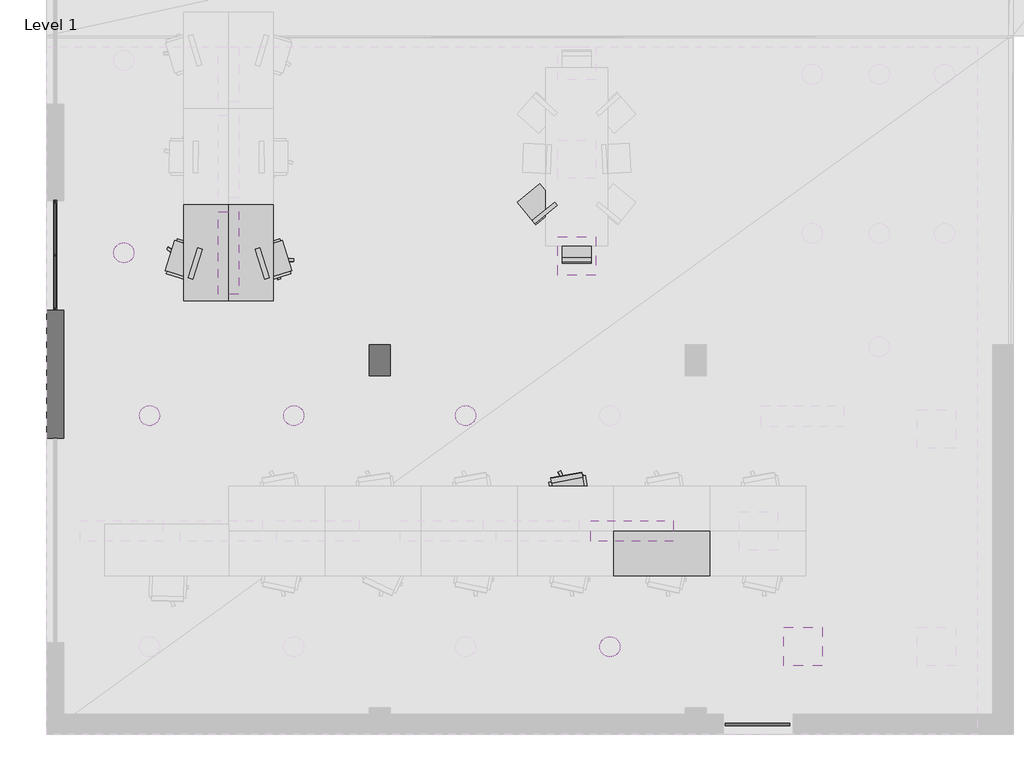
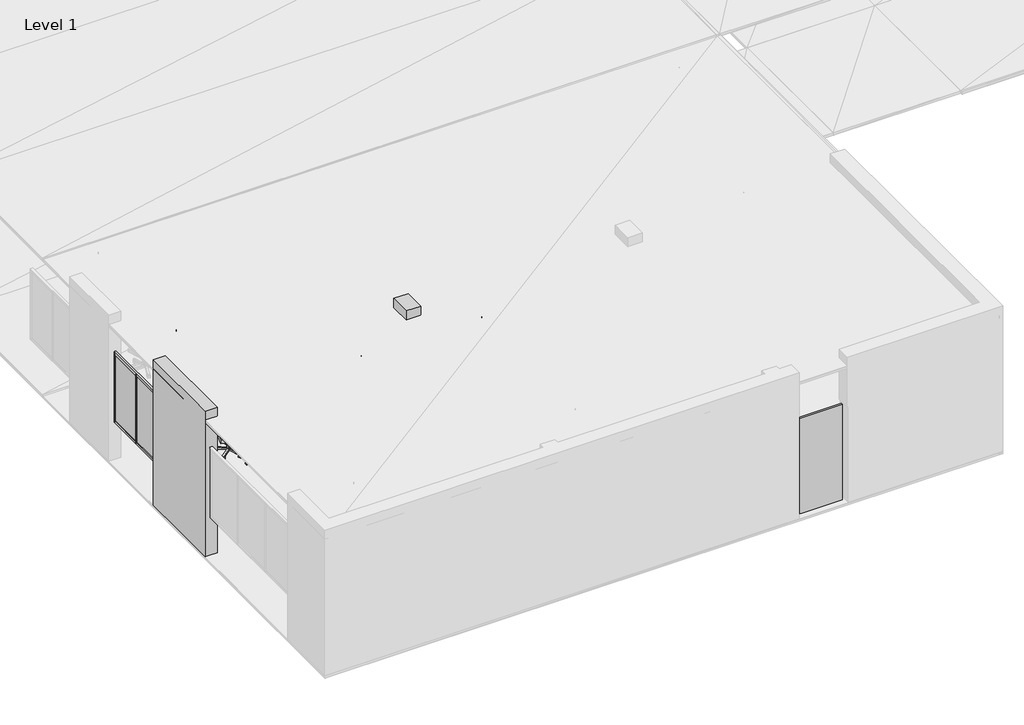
# One storey, part 3 of 14: 24 proxies.
"""IFC4 building model written with IfcOpenShell, lengths in millimetres."""

from ifc_helpers import new_model, si_unit, frame, origin, origin_with_axes, place, context, project, spatial, polyline, outline, extrude, element, save

model = new_model("IFC4")

# Units and contexts
model_context = context("Model", 3, world=origin())
ifc_project = project(units=[si_unit("LENGTHUNIT", "METRE", prefix="MILLI")], contexts=[model_context])

# Site, building, storey
site = spatial("IfcSite", under=ifc_project)
building = spatial("IfcBuilding", under=site)
storey = spatial("IfcBuildingStorey", under=building, Name="Level 1", Elevation=0.0)

# Proxies
placement = place(None, origin())
element("IfcBuildingElementProxy", 1, Name="Generic Models", at=placement, inside=storey, context=model_context, shape_type="SweptSolid", body=[
    extrude(outline(polyline([(8256.826401, 2957.967758), (9656.826019, 2957.967758), (9656.826019, 2307.967901), (8256.826401, 2307.967901), (8256.826401, 2957.967758)])), frame((0.0, 0.0, 709.999979), z_axis=(0.0, 0.0, 1.0), x_axis=(1.0, 0.0, 0.0)), (0.0, 0.0, 1.0), 40.000021),
])
element("IfcBuildingElementProxy", 2, Name="Generic Models", at=placement, inside=storey, context=model_context, shape_type="SweptSolid", body=[
    extrude(outline(polyline([(3306.826115, 6308.549404), (2656.826019, 6308.549404), (2656.826019, 7708.5495), (3306.826115, 7708.5495), (3306.826115, 6308.549404)])), frame((0.0, 0.0, 709.999979), z_axis=(0.0, 0.0, 1.0), x_axis=(1.0, 0.0, 0.0)), (0.0, 0.0, 1.0), 40.000021),
])
element("IfcBuildingElementProxy", 3, Name="Generic Models", at=placement, inside=storey, context=model_context, shape_type="SweptSolid", body=[
    extrude(outline(polyline([(2656.826019, 6308.549404), (2006.826162, 6308.549404), (2006.826162, 7708.5495), (2656.826019, 7708.5495), (2656.826019, 6308.549404)])), frame((0.0, 0.0, 709.999979), z_axis=(0.0, 0.0, 1.0), x_axis=(1.0, 0.0, 0.0)), (0.0, 0.0, 1.0), 40.000021),
])
element("IfcBuildingElementProxy", 4, Name="Generic Models", at=placement, inside=storey, context=model_context, shape_type="SweptSolid", body=[
    extrude(outline(polyline([(4706.017494, 5670.000553), (5006.017685, 5670.000553), (5006.017685, 5220.000267), (4706.017494, 5220.000267), (4706.017494, 5670.000553)])), origin_with_axes(), (0.0, 0.0, 1.0), 3200.000048),
])
element("IfcBuildingElementProxy", 5, Name="Generic Models", at=placement, inside=storey, context=model_context, shape_type="SweptSolid", body=[
    extrude(outline(polyline([(6.826094, 6170.000553), (256.826103, 6170.000553), (256.826103, 4310.00042), (6.826094, 4310.00042), (6.826094, 6170.000553)])), origin_with_axes(), (0.0, 0.0, 1.0), 3200.000048),
])
element("IfcBuildingElementProxy", 6, Name="Generic Models", at=placement, inside=storey, context=model_context, shape_type="SweptSolid", body=[
    extrude(outline(polyline([(10826.01738, 162.500352), (10826.01738, 127.500355), (9886.017799, 127.500355), (9886.017799, 162.500352), (10826.01738, 162.500352)])), origin_with_axes(), (0.0, 0.0, 1.0), 2099.999905),
])
element("IfcBuildingElementProxy", 7, Name="Generic Models", at=placement, inside=storey, context=model_context, shape_type="SweptSolid", body=[
    extrude(outline(polyline([(153.899997, 6957.499981), (108.900003, 6957.499981), (108.900003, 6982.500076), (153.899997, 6982.500076), (153.899997, 6957.499981)])), frame((0.0, 0.0, 850.000024), z_axis=(0.0, 0.0, 1.0), x_axis=(1.0, 0.0, 0.0)), (0.0, 0.0, 1.0), 1499.999881),
    extrude(outline(polyline([(153.899997, 7727.499962), (108.900003, 7727.499962), (108.900003, 7772.500038), (153.899997, 7772.500038), (153.899997, 7727.499962)])), frame((0.0, 0.0, 850.000024), z_axis=(0.0, 0.0, 1.0), x_axis=(1.0, 0.0, 0.0)), (0.0, 0.0, 1.0), 1499.999881),
    extrude(outline(polyline([(153.899997, 6167.500019), (108.900003, 6167.500019), (108.900003, 6212.500095), (153.899997, 6212.500095), (153.899997, 6167.500019)])), frame((0.0, 0.0, 850.000024), z_axis=(0.0, 0.0, 1.0), x_axis=(1.0, 0.0, 0.0)), (0.0, 0.0, 1.0), 1499.999881),
    extrude(outline(polyline([(153.899997, 6170.000076), (108.900003, 6170.000076), (108.900003, 7769.999981), (153.899997, 7769.999981), (153.899997, 6170.000076)])), frame((0.0, 0.0, 2327.500105), z_axis=(0.0, 0.0, 1.0), x_axis=(1.0, 0.0, 0.0)), (0.0, 0.0, 1.0), 44.999838),
    extrude(outline(polyline([(153.899997, 6170.000076), (108.900003, 6170.000076), (108.900003, 7769.999981), (153.899997, 7769.999981), (153.899997, 6170.000076)])), frame((0.0, 0.0, 827.499986), z_axis=(0.0, 0.0, 1.0), x_axis=(1.0, 0.0, 0.0)), (0.0, 0.0, 1.0), 45.000016),
    extrude(outline(polyline([(140.400007, 6170.000076), (122.400001, 6170.000076), (122.400001, 7769.999981), (140.400007, 7769.999981), (140.400007, 6170.000076)])), frame((0.0, 0.0, 850.000024), z_axis=(0.0, 0.0, 1.0), x_axis=(1.0, 0.0, 0.0)), (0.0, 0.0, 1.0), 1499.999881),
])
element("IfcBuildingElementProxy", 8, Name="Generic Models", at=placement, inside=storey, context=model_context, shape_type="SweptSolid", body=[
    extrude(outline(polyline([(2806.826115, 6408.549309), (2506.825924, 6408.549309), (2506.825924, 7608.549118), (2806.826115, 7608.549118), (2806.826115, 6408.549309)])), frame((0.0, 0.0, 2910.000086), z_axis=(0.0, 0.0, 1.0), x_axis=(1.0, 0.0, 0.0)), (0.0, 0.0, 1.0), 39.999962),
])
element("IfcBuildingElementProxy", 9, Name="Generic Models", at=placement, inside=storey, context=model_context, shape_type="SweptSolid", body=[
    extrude(outline(polyline([(7924.602985, 2807.967901), (7924.602985, 3107.968092), (9124.603271, 3107.968092), (9124.603271, 2807.967901), (7924.602985, 2807.967901)])), frame((0.0, 0.0, 2910.000086), z_axis=(0.0, 0.0, 1.0), x_axis=(1.0, 0.0, 0.0)), (0.0, 0.0, 1.0), 39.999962),
])
element("IfcBuildingElementProxy", 10, Name="Generic Models", at=placement, inside=storey, context=model_context, shape_type="SweptSolid", body=[
    extrude(outline(polyline([(7443.556786, 6683.823586), (7443.556786, 7243.824005), (8003.557205, 7243.824005), (8003.557205, 6683.823586), (7443.556786, 6683.823586)])), frame((0.0, 0.0, 2910.000086), z_axis=(0.0, 0.0, 1.0), x_axis=(1.0, 0.0, 0.0)), (0.0, 0.0, 1.0), 39.999962),
])
element("IfcBuildingElementProxy", 11, Name="Generic Models", at=placement, inside=storey, context=model_context, shape_type="SweptSolid", body=[
    extrude(outline(polyline([(10737.638474, 999.878049), (10737.638474, 1559.877992), (11297.637939, 1559.877992), (11297.637939, 999.878049), (10737.638474, 999.878049)])), frame((0.0, 0.0, 2910.000086), z_axis=(0.0, 0.0, 1.0), x_axis=(1.0, 0.0, 0.0)), (0.0, 0.0, 1.0), 39.999962),
])
element("IfcBuildingElementProxy", 12, Name="Generic Models", at=placement, inside=storey, context=model_context, shape_type="SweptSolid", body=[
    extrude(outline(polyline([(8342.161179, 1217.591763), (8328.543663, 1192.115068), (8310.217857, 1169.784665), (8287.887573, 1151.458502), (8262.411118, 1137.840986), (8234.76696, 1129.455328), (8206.018448, 1126.623869), (8177.269936, 1129.455328), (8149.625778, 1137.840986), (8124.149323, 1151.458502), (8101.819038, 1169.784665), (8083.493233, 1192.115068), (8069.875717, 1217.591763), (8061.490059, 1245.235443), (8058.6586, 1273.983955), (8061.490059, 1302.732468), (8069.875717, 1330.376148), (8083.493233, 1355.852842), (8101.819038, 1378.183246), (8124.149323, 1396.509409), (8149.625778, 1410.126925), (8177.269936, 1418.512583), (8206.018448, 1421.344042), (8234.76696, 1418.512583), (8262.411118, 1410.126925), (8287.887573, 1396.509409), (8310.217857, 1378.183246), (8328.543663, 1355.852842), (8342.161179, 1330.376148), (8350.546837, 1302.732468), (8353.378296, 1273.983955), (8350.546837, 1245.235443), (8342.161179, 1217.591763)])), frame((0.0, 0.0, 2910.000086), z_axis=(0.0, 0.0, 1.0), x_axis=(1.0, 0.0, 0.0)), (0.0, 0.0, 1.0), 39.999962),
])
element("IfcBuildingElementProxy", 13, Name="Generic Models", at=placement, inside=storey, context=model_context, shape_type="SweptSolid", body=[
    extrude(outline(polyline([(1267.969012, 6952.157021), (1254.351497, 6926.680565), (1236.025333, 6904.349804), (1213.69493, 6886.023998), (1188.218355, 6872.406483), (1160.574555, 6864.020824), (1131.826043, 6861.189365), (1103.077531, 6864.020824), (1075.433731, 6872.406483), (1049.957156, 6886.023998), (1027.626753, 6904.349804), (1009.30059, 6926.680565), (995.683074, 6952.157021), (987.297475, 6979.800701), (984.465957, 7008.549213), (987.297475, 7037.297726), (995.683074, 7064.941406), (1009.30059, 7090.417862), (1027.626753, 7112.748623), (1049.957156, 7131.074429), (1075.433731, 7144.691944), (1103.077531, 7153.077602), (1131.826043, 7155.909061), (1160.574555, 7153.077602), (1188.218355, 7144.691944), (1213.69493, 7131.074429), (1236.025333, 7112.748623), (1254.351497, 7090.417862), (1267.969012, 7064.941406), (1276.354671, 7037.297726), (1279.18613, 7008.549213), (1276.354671, 6979.800701), (1267.969012, 6952.157021)])), frame((0.0, 0.0, 2910.000086), z_axis=(0.0, 0.0, 1.0), x_axis=(1.0, 0.0, 0.0)), (0.0, 0.0, 1.0), 39.999962),
])
element("IfcBuildingElementProxy", 14, Name="Generic Models", at=placement, inside=storey, context=model_context, shape_type="SweptSolid", body=[
    extrude(outline(polyline([(6242.160797, 4582.59201), (6228.543282, 4557.115555), (6210.217476, 4534.784794), (6187.886715, 4516.458988), (6162.410259, 4502.841473), (6134.766579, 4494.455814), (6106.018066, 4491.624355), (6077.269554, 4494.455814), (6049.625874, 4502.841473), (6024.149418, 4516.458988), (6001.818657, 4534.784794), (5983.492851, 4557.115555), (5969.875336, 4582.59201), (5961.489677, 4610.235691), (5958.658218, 4638.984203), (5961.489677, 4667.732716), (5969.875336, 4695.376396), (5983.492851, 4720.852852), (6001.818657, 4743.183613), (6024.149418, 4761.509418), (6049.625874, 4775.126934), (6077.269554, 4783.512592), (6106.018066, 4786.344051), (6134.766579, 4783.512592), (6162.410259, 4775.126934), (6187.886715, 4761.509418), (6210.217476, 4743.183613), (6228.543282, 4720.852852), (6242.160797, 4695.376396), (6250.546455, 4667.732716), (6253.377914, 4638.984203), (6250.546455, 4610.235691), (6242.160797, 4582.59201)])), frame((0.0, 0.0, 2910.000086), z_axis=(0.0, 0.0, 1.0), x_axis=(1.0, 0.0, 0.0)), (0.0, 0.0, 1.0), 39.999962),
])
element("IfcBuildingElementProxy", 15, Name="Generic Models", at=placement, inside=storey, context=model_context, shape_type="SweptSolid", body=[
    extrude(outline(polyline([(3742.161036, 4582.59201), (3728.54352, 4557.115555), (3710.217476, 4534.784794), (3687.886953, 4516.458988), (3662.410259, 4502.841473), (3634.766579, 4494.455814), (3606.018066, 4491.624355), (3577.269554, 4494.455814), (3549.625874, 4502.841473), (3524.149179, 4516.458988), (3501.818657, 4534.784794), (3483.492613, 4557.115555), (3469.875097, 4582.59201), (3461.489439, 4610.235691), (3458.65798, 4638.984203), (3461.489439, 4667.732716), (3469.875097, 4695.376396), (3483.492613, 4720.852852), (3501.818657, 4743.183613), (3524.149179, 4761.509418), (3549.625874, 4775.126934), (3577.269554, 4783.512592), (3606.018066, 4786.344051), (3634.766579, 4783.512592), (3662.410259, 4775.126934), (3687.886953, 4761.509418), (3710.217476, 4743.183613), (3728.54352, 4720.852852), (3742.161036, 4695.376396), (3750.546694, 4667.732716), (3753.378153, 4638.984203), (3750.546694, 4610.235691), (3742.161036, 4582.59201)])), frame((0.0, 0.0, 2910.000086), z_axis=(0.0, 0.0, 1.0), x_axis=(1.0, 0.0, 0.0)), (0.0, 0.0, 1.0), 39.999962),
])
element("IfcBuildingElementProxy", 16, Name="Generic Models", at=placement, inside=storey, context=model_context, shape_type="SweptSolid", body=[
    extrude(outline(polyline([(1642.161012, 4582.59201), (1628.543496, 4557.115555), (1610.217333, 4534.784794), (1587.88693, 4516.458988), (1562.410355, 4502.841473), (1534.766555, 4494.455814), (1506.018043, 4491.624355), (1477.26953, 4494.455814), (1449.625731, 4502.841473), (1424.149156, 4516.458988), (1401.818752, 4534.784794), (1383.492589, 4557.115555), (1369.875073, 4582.59201), (1361.489415, 4610.235691), (1358.657956, 4638.984203), (1361.489415, 4667.732716), (1369.875073, 4695.376396), (1383.492589, 4720.852852), (1401.818752, 4743.183613), (1424.149156, 4761.509418), (1449.625731, 4775.126934), (1477.26953, 4783.512592), (1506.018043, 4786.344051), (1534.766555, 4783.512592), (1562.410355, 4775.126934), (1587.88693, 4761.509418), (1610.217333, 4743.183613), (1628.543496, 4720.852852), (1642.161012, 4695.376396), (1650.54667, 4667.732716), (1653.378129, 4638.984203), (1650.54667, 4610.235691), (1642.161012, 4582.59201)])), frame((0.0, 0.0, 2910.000086), z_axis=(0.0, 0.0, 1.0), x_axis=(1.0, 0.0, 0.0)), (0.0, 0.0, 1.0), 39.999962),
])
element("IfcBuildingElementProxy", 17, Name="Generic Models", at=placement, inside=storey, context=model_context, shape_type="SweptSolid", body=[
    extrude(outline(polyline([(7184.267044, 7926.784992), (7166.534901, 7948.45438), (7188.204288, 7966.187), (7205.936432, 7944.517612), (7184.267044, 7926.784992)])), frame((0.0, 0.0, 50.000001), z_axis=(0.0, 0.0, 1.0), x_axis=(1.0, 0.0, 0.0)), (0.0, 0.0, 1.0), 389.999997),
    extrude(outline(polyline([(7386.92379, 7679.135323), (7369.19117, 7700.80471), (7390.860558, 7718.537331), (7408.593178, 7696.867943), (7386.92379, 7679.135323)])), frame((0.0, 0.0, 50.000001), z_axis=(0.0, 0.0, 1.0), x_axis=(1.0, 0.0, 0.0)), (0.0, 0.0, 1.0), 389.999997),
    extrude(outline(polyline([(6921.13924, 7711.462498), (6903.407097, 7733.131886), (6925.076485, 7750.864506), (6942.808628, 7729.195118), (6921.13924, 7711.462498)])), frame((0.0, 0.0, 50.000001), z_axis=(0.0, 0.0, 1.0), x_axis=(1.0, 0.0, 0.0)), (0.0, 0.0, 1.0), 389.999997),
    extrude(outline(polyline([(7123.795986, 7463.812828), (7106.063366, 7485.482216), (7127.732754, 7503.214836), (7145.465374, 7481.545448), (7123.795986, 7463.812828)])), frame((0.0, 0.0, 50.000001), z_axis=(0.0, 0.0, 1.0), x_axis=(1.0, 0.0, 0.0)), (0.0, 0.0, 1.0), 389.999997),
    extrude(outline(polyline([(7113.807201, 7434.964657), (7075.809002, 7481.399059), (7400.849342, 7747.385502), (7438.847542, 7700.951099), (7113.807201, 7434.964657)])), frame((0.0, 0.0, 460.000008), z_axis=(0.0, 0.0, 1.0), x_axis=(1.0, 0.0, 0.0)), (0.0, 0.0, 1.0), 400.000006),
    extrude(outline(polyline([(7126.473427, 7419.486523), (6860.486507, 7744.526863), (7185.526848, 8010.513306), (7451.51329, 7685.473442), (7126.473427, 7419.486523)])), frame((0.0, 0.0, 417.499989), z_axis=(0.0, 0.0, 1.0), x_axis=(1.0, 0.0, 0.0)), (0.0, 0.0, 1.0), 55.000007),
])
element("IfcBuildingElementProxy", 18, Name="Generic Models", at=placement, inside=storey, context=model_context, shape_type="SweptSolid", body=[
    extrude(outline(polyline([(7877.980709, 7212.020397), (7877.977371, 7240.020275), (7905.977249, 7240.02409), (7905.981064, 7212.024212), (7877.980709, 7212.020397)])), frame((0.0, 0.0, 50.000001), z_axis=(0.0, 0.0, 1.0), x_axis=(1.0, 0.0, 0.0)), (0.0, 0.0, 1.0), 389.999997),
    extrude(outline(polyline([(7878.022671, 6892.020226), (7878.018856, 6920.02058), (7906.019211, 6920.023918), (7906.022549, 6892.02404), (7878.022671, 6892.020226)])), frame((0.0, 0.0, 50.000001), z_axis=(0.0, 0.0, 1.0), x_axis=(1.0, 0.0, 0.0)), (0.0, 0.0, 1.0), 389.999997),
    extrude(outline(polyline([(7537.981033, 7211.976051), (7537.977219, 7239.975929), (7565.977097, 7239.979744), (7565.980911, 7211.979389), (7537.981033, 7211.976051)])), frame((0.0, 0.0, 50.000001), z_axis=(0.0, 0.0, 1.0), x_axis=(1.0, 0.0, 0.0)), (0.0, 0.0, 1.0), 389.999997),
    extrude(outline(polyline([(7538.022518, 6891.97588), (7538.01918, 6919.975758), (7566.019058, 6919.979572), (7566.022873, 6891.979694), (7538.022518, 6891.97588)])), frame((0.0, 0.0, 50.000001), z_axis=(0.0, 0.0, 1.0), x_axis=(1.0, 0.0, 0.0)), (0.0, 0.0, 1.0), 389.999997),
    extrude(outline(polyline([(7512.024879, 6875.972748), (7512.016773, 6935.972691), (7932.01685, 6936.027527), (7932.024956, 6876.027584), (7512.024879, 6875.972748)])), frame((0.0, 0.0, 460.000008), z_axis=(0.0, 0.0, 1.0), x_axis=(1.0, 0.0, 0.0)), (0.0, 0.0, 1.0), 400.000006),
    extrude(outline(polyline([(7512.027264, 6855.972767), (7511.972427, 7275.972366), (7931.972504, 7276.027203), (7932.02734, 6856.027603), (7512.027264, 6855.972767)])), frame((0.0, 0.0, 417.499989), z_axis=(0.0, 0.0, 1.0), x_axis=(1.0, 0.0, 0.0)), (0.0, 0.0, 1.0), 55.000007),
])
element("IfcBuildingElementProxy", 19, Name="Generic Models", at=placement, inside=storey, context=model_context, shape_type="SweptSolid", body=[
    extrude(outline(polyline([(9604.326248, 2382.967949), (9559.326172, 2382.967949), (9559.326172, 2882.96771), (9604.326248, 2882.96771), (9604.326248, 2382.967949)])), frame((0.0, 0.0, 639.999986), z_axis=(0.0, 0.0, 1.0), x_axis=(1.0, 0.0, 0.0)), (0.0, 0.0, 1.0), 69.999993),
    extrude(outline(polyline([(8354.326248, 2382.967949), (8309.326172, 2382.967949), (8309.326172, 2882.96771), (8354.326248, 2882.96771), (8354.326248, 2382.967949)])), frame((0.0, 0.0, 639.999986), z_axis=(0.0, 0.0, 1.0), x_axis=(1.0, 0.0, 0.0)), (0.0, 0.0, 1.0), 69.999993),
    extrude(outline(polyline([(8331.82621, 2860.467672), (8331.82621, 2905.467749), (9581.82621, 2905.467749), (9581.82621, 2860.467672), (8331.82621, 2860.467672)])), frame((0.0, 0.0, 639.999986), z_axis=(0.0, 0.0, 1.0), x_axis=(1.0, 0.0, 0.0)), (0.0, 0.0, 1.0), 69.999993),
    extrude(outline(polyline([(8331.82621, 2360.467911), (8331.82621, 2405.467987), (9581.82621, 2405.467987), (9581.82621, 2360.467911), (8331.82621, 2360.467911)])), frame((0.0, 0.0, 639.999986), z_axis=(0.0, 0.0, 1.0), x_axis=(1.0, 0.0, 0.0)), (0.0, 0.0, 1.0), 69.999993),
    extrude(outline(polyline([(9557.451248, 2858.592749), (9557.451248, 2907.342672), (9606.201172, 2907.342672), (9606.201172, 2858.592749), (9557.451248, 2858.592749)])), frame((0.0, 0.0, 50.000001), z_axis=(0.0, 0.0, 1.0), x_axis=(1.0, 0.0, 0.0)), (0.0, 0.0, 1.0), 659.999978),
    extrude(outline(polyline([(9557.451248, 2358.592987), (9557.451248, 2407.342911), (9606.201172, 2407.342911), (9606.201172, 2358.592987), (9557.451248, 2358.592987)])), frame((0.0, 0.0, 50.000001), z_axis=(0.0, 0.0, 1.0), x_axis=(1.0, 0.0, 0.0)), (0.0, 0.0, 1.0), 659.999978),
    extrude(outline(polyline([(8307.451248, 2858.592749), (8307.451248, 2907.342672), (8356.201172, 2907.342672), (8356.201172, 2858.592749), (8307.451248, 2858.592749)])), frame((0.0, 0.0, 50.000001), z_axis=(0.0, 0.0, 1.0), x_axis=(1.0, 0.0, 0.0)), (0.0, 0.0, 1.0), 659.999978),
    extrude(outline(polyline([(8307.451248, 2358.592987), (8307.451248, 2407.342911), (8356.201172, 2407.342911), (8356.201172, 2358.592987), (8307.451248, 2358.592987)])), frame((0.0, 0.0, 50.000001), z_axis=(0.0, 0.0, 1.0), x_axis=(1.0, 0.0, 0.0)), (0.0, 0.0, 1.0), 659.999978),
])
element("IfcBuildingElementProxy", 20, Name="Generic Models", at=placement, inside=storey, context=model_context, shape_type="SweptSolid", body=[
    extrude(outline(polyline([(3254.326105, 6383.549213), (3209.326029, 6383.549213), (3209.326029, 7633.54969), (3254.326105, 7633.54969), (3254.326105, 6383.549213)])), frame((0.0, 0.0, 639.999986), z_axis=(0.0, 0.0, 1.0), x_axis=(1.0, 0.0, 0.0)), (0.0, 0.0, 1.0), 69.999993),
    extrude(outline(polyline([(2754.326105, 6383.549213), (2709.326029, 6383.549213), (2709.326029, 7633.54969), (2754.326105, 7633.54969), (2754.326105, 6383.549213)])), frame((0.0, 0.0, 639.999986), z_axis=(0.0, 0.0, 1.0), x_axis=(1.0, 0.0, 0.0)), (0.0, 0.0, 1.0), 69.999993),
    extrude(outline(polyline([(2731.826067, 7611.049652), (2731.826067, 7656.049728), (3231.826067, 7656.049728), (3231.826067, 7611.049652), (2731.826067, 7611.049652)])), frame((0.0, 0.0, 639.999986), z_axis=(0.0, 0.0, 1.0), x_axis=(1.0, 0.0, 0.0)), (0.0, 0.0, 1.0), 69.999993),
    extrude(outline(polyline([(2731.826067, 6361.049175), (2731.826067, 6406.049252), (3231.826067, 6406.049252), (3231.826067, 6361.049175), (2731.826067, 6361.049175)])), frame((0.0, 0.0, 639.999986), z_axis=(0.0, 0.0, 1.0), x_axis=(1.0, 0.0, 0.0)), (0.0, 0.0, 1.0), 69.999993),
    extrude(outline(polyline([(3207.451105, 7609.174728), (3207.451105, 7657.924652), (3256.201029, 7657.924652), (3256.201029, 7609.174728), (3207.451105, 7609.174728)])), frame((0.0, 0.0, 50.000001), z_axis=(0.0, 0.0, 1.0), x_axis=(1.0, 0.0, 0.0)), (0.0, 0.0, 1.0), 659.999978),
    extrude(outline(polyline([(3207.451105, 6359.174252), (3207.451105, 6407.924175), (3256.201029, 6407.924175), (3256.201029, 6359.174252), (3207.451105, 6359.174252)])), frame((0.0, 0.0, 50.000001), z_axis=(0.0, 0.0, 1.0), x_axis=(1.0, 0.0, 0.0)), (0.0, 0.0, 1.0), 659.999978),
    extrude(outline(polyline([(2707.451105, 7609.174728), (2707.451105, 7657.924652), (2756.201029, 7657.924652), (2756.201029, 7609.174728), (2707.451105, 7609.174728)])), frame((0.0, 0.0, 50.000001), z_axis=(0.0, 0.0, 1.0), x_axis=(1.0, 0.0, 0.0)), (0.0, 0.0, 1.0), 659.999978),
    extrude(outline(polyline([(2707.451105, 6359.174252), (2707.451105, 6407.924175), (2756.201029, 6407.924175), (2756.201029, 6359.174252), (2707.451105, 6359.174252)])), frame((0.0, 0.0, 50.000001), z_axis=(0.0, 0.0, 1.0), x_axis=(1.0, 0.0, 0.0)), (0.0, 0.0, 1.0), 659.999978),
])
element("IfcBuildingElementProxy", 21, Name="Generic Models", at=placement, inside=storey, context=model_context, shape_type="SweptSolid", body=[
    extrude(outline(polyline([(2604.32601, 6383.549213), (2559.325933, 6383.549213), (2559.325933, 7633.54969), (2604.32601, 7633.54969), (2604.32601, 6383.549213)])), frame((0.0, 0.0, 639.999986), z_axis=(0.0, 0.0, 1.0), x_axis=(1.0, 0.0, 0.0)), (0.0, 0.0, 1.0), 69.999993),
    extrude(outline(polyline([(2104.326248, 6383.549213), (2059.326172, 6383.549213), (2059.326172, 7633.54969), (2104.326248, 7633.54969), (2104.326248, 6383.549213)])), frame((0.0, 0.0, 639.999986), z_axis=(0.0, 0.0, 1.0), x_axis=(1.0, 0.0, 0.0)), (0.0, 0.0, 1.0), 69.999993),
    extrude(outline(polyline([(2081.82621, 7611.049652), (2081.82621, 7656.049728), (2581.825972, 7656.049728), (2581.825972, 7611.049652), (2081.82621, 7611.049652)])), frame((0.0, 0.0, 639.999986), z_axis=(0.0, 0.0, 1.0), x_axis=(1.0, 0.0, 0.0)), (0.0, 0.0, 1.0), 69.999993),
    extrude(outline(polyline([(2081.82621, 6361.049175), (2081.82621, 6406.049252), (2581.825972, 6406.049252), (2581.825972, 6361.049175), (2081.82621, 6361.049175)])), frame((0.0, 0.0, 639.999986), z_axis=(0.0, 0.0, 1.0), x_axis=(1.0, 0.0, 0.0)), (0.0, 0.0, 1.0), 69.999993),
    extrude(outline(polyline([(2557.45101, 7609.174728), (2557.45101, 7657.924652), (2606.200933, 7657.924652), (2606.200933, 7609.174728), (2557.45101, 7609.174728)])), frame((0.0, 0.0, 50.000001), z_axis=(0.0, 0.0, 1.0), x_axis=(1.0, 0.0, 0.0)), (0.0, 0.0, 1.0), 659.999978),
    extrude(outline(polyline([(2557.45101, 6359.174252), (2557.45101, 6407.924175), (2606.200933, 6407.924175), (2606.200933, 6359.174252), (2557.45101, 6359.174252)])), frame((0.0, 0.0, 50.000001), z_axis=(0.0, 0.0, 1.0), x_axis=(1.0, 0.0, 0.0)), (0.0, 0.0, 1.0), 659.999978),
    extrude(outline(polyline([(2057.451248, 7609.174728), (2057.451248, 7657.924652), (2106.201172, 7657.924652), (2106.201172, 7609.174728), (2057.451248, 7609.174728)])), frame((0.0, 0.0, 50.000001), z_axis=(0.0, 0.0, 1.0), x_axis=(1.0, 0.0, 0.0)), (0.0, 0.0, 1.0), 659.999978),
    extrude(outline(polyline([(2057.451248, 6359.174252), (2057.451248, 6407.924175), (2106.201172, 6407.924175), (2106.201172, 6359.174252), (2057.451248, 6359.174252)])), frame((0.0, 0.0, 50.000001), z_axis=(0.0, 0.0, 1.0), x_axis=(1.0, 0.0, 0.0)), (0.0, 0.0, 1.0), 659.999978),
])
element("IfcBuildingElementProxy", 22, Name="Generic Models", at=placement, inside=storey, context=model_context, shape_type="SweptSolid", body=[
    extrude(outline(polyline([(3377.667427, 6681.915283), (3406.279564, 6690.934181), (3415.298462, 6662.322044), (3386.686325, 6653.303146), (3377.667427, 6681.915283)])), frame((0.0, 0.0, 439.999998), z_axis=(0.0, 0.0, 1.0), x_axis=(1.0, 0.0, 0.0)), (0.0, 0.0, 1.0), 199.999988),
    extrude(outline(polyline([(3229.086161, 6637.701511), (3553.357601, 6739.916325), (3563.879728, 6706.535816), (3239.608288, 6604.320526), (3229.086161, 6637.701511)])), frame((0.0, 0.0, 612.500012), z_axis=(0.0, 0.0, 1.0), x_axis=(1.0, 0.0, 0.0)), (0.0, 0.0, 1.0), 34.999967),
    extrude(outline(polyline([(3192.854404, 6694.433212), (3216.697931, 6701.94912), (3224.213839, 6678.105831), (3200.370312, 6670.589924), (3192.854404, 6694.433212)])), frame((0.0, 0.0, 460.000008), z_axis=(0.0, 0.0, 1.0), x_axis=(1.0, 0.0, 0.0)), (0.0, 0.0, 1.0), 400.000006),
    extrude(outline(polyline([(3227.35095, 7158.784866), (3255.963087, 7167.804241), (3264.982224, 7139.192104), (3236.369848, 7130.172729), (3227.35095, 7158.784866)])), frame((0.0, 0.0, 439.999998), z_axis=(0.0, 0.0, 1.0), x_axis=(1.0, 0.0, 0.0)), (0.0, 0.0, 1.0), 199.999988),
    extrude(outline(polyline([(3078.769684, 7114.571571), (3403.041363, 7216.786385), (3413.56349, 7183.405399), (3089.291811, 7081.190586), (3078.769684, 7114.571571)])), frame((0.0, 0.0, 612.500012), z_axis=(0.0, 0.0, 1.0), x_axis=(1.0, 0.0, 0.0)), (0.0, 0.0, 1.0), 34.999967),
    extrude(outline(polyline([(3084.626675, 7037.779808), (3108.470201, 7045.295715), (3115.986109, 7021.45195), (3092.142582, 7013.93652), (3084.626675, 7037.779808)])), frame((0.0, 0.0, 460.000008), z_axis=(0.0, 0.0, 1.0), x_axis=(1.0, 0.0, 0.0)), (0.0, 0.0, 1.0), 400.000006),
    extrude(outline(polyline([(3042.356491, 7063.774586), (3109.118223, 7084.81884), (3247.409344, 6646.098614), (3180.647373, 6625.053883), (3042.356491, 7063.774586)])), frame((0.0, 0.0, 460.000008), z_axis=(0.0, 0.0, 1.0), x_axis=(1.0, 0.0, 0.0)), (0.0, 0.0, 1.0), 479.99999),
    extrude(outline(polyline([(3037.587643, 7062.271118), (3438.158512, 7188.537121), (3576.449633, 6749.816895), (3175.878763, 6623.550892), (3037.587643, 7062.271118)])), frame((0.0, 0.0, 400.000006), z_axis=(0.0, 0.0, 1.0), x_axis=(1.0, 0.0, 0.0)), (0.0, 0.0, 1.0), 69.999993),
    extrude(outline(polyline([(3324.518681, 6875.732899), (3307.018757, 6871.044159), (3289.518595, 6875.732899), (3276.707649, 6888.544083), (3272.018671, 6906.044006), (3276.707649, 6923.54393), (3289.518595, 6936.355114), (3307.018757, 6941.043854), (3324.518681, 6936.355114), (3337.329626, 6923.54393), (3342.018604, 6906.044006), (3337.329626, 6888.544083), (3324.518681, 6875.732899)])), frame((0.0, 0.0, 115.000002), z_axis=(0.0, 0.0, 1.0), x_axis=(1.0, 0.0, 0.0)), (0.0, 0.0, 1.0), 280.000009),
    extrude(outline(polyline([(3100.591183, 6786.4604), (3126.719952, 6749.823093), (3081.941366, 6717.887878), (3055.812359, 6754.525185), (3100.591183, 6786.4604)])), frame((0.0, 0.0, 35.0), z_axis=(0.0, 0.0, 1.0), x_axis=(1.0, 0.0, 0.0)), (0.0, 0.0, 1.0), 59.999999),
    extrude(outline(polyline([(3300.928116, 6923.194885), (3321.250677, 6894.699574), (3077.002764, 6720.507145), (3056.680202, 6749.002934), (3300.928116, 6923.194885)])), frame((0.0, 0.0, 82.500003), z_axis=(0.0, 0.0, 1.0), x_axis=(1.0, 0.0, 0.0)), (0.0, 0.0, 1.0), 34.999997),
    extrude(outline(polyline([(3129.498243, 7065.414906), (3102.728605, 7029.243469), (3058.518887, 7061.962128), (3085.288763, 7098.133564), (3129.498243, 7065.414906)])), frame((0.0, 0.0, 35.0), z_axis=(0.0, 0.0, 1.0), x_axis=(1.0, 0.0, 0.0)), (0.0, 0.0, 1.0), 59.999999),
    extrude(outline(polyline([(3321.448088, 6917.136192), (3300.627232, 6889.0028), (3059.483767, 7067.468166), (3080.304861, 7095.601559), (3321.448088, 6917.136192)])), frame((0.0, 0.0, 82.500003), z_axis=(0.0, 0.0, 1.0), x_axis=(1.0, 0.0, 0.0)), (0.0, 0.0, 1.0), 34.999997),
    extrude(outline(polyline([(3403.732538, 7124.12405), (3361.05895, 7138.406277), (3378.514767, 7190.562725), (3421.188116, 7176.280499), (3403.732538, 7124.12405)])), frame((0.0, 0.0, 35.0), z_axis=(0.0, 0.0, 1.0), x_axis=(1.0, 0.0, 0.0)), (0.0, 0.0, 1.0), 59.999999),
    extrude(outline(polyline([(3322.026968, 6895.748615), (3288.836479, 6906.856537), (3384.049654, 7191.346645), (3417.240143, 7180.238247), (3322.026968, 6895.748615)])), frame((0.0, 0.0, 82.500003), z_axis=(0.0, 0.0, 1.0), x_axis=(1.0, 0.0, 0.0)), (0.0, 0.0, 1.0), 34.999997),
    extrude(outline(polyline([(3544.311285, 6881.453991), (3544.707537, 6926.45216), (3599.705458, 6925.96817), (3599.309206, 6880.970001), (3544.311285, 6881.453991)])), frame((0.0, 0.0, 35.0), z_axis=(0.0, 0.0, 1.0), x_axis=(1.0, 0.0, 0.0)), (0.0, 0.0, 1.0), 59.999999),
    extrude(outline(polyline([(3301.864862, 6888.588905), (3302.172899, 6923.587322), (3602.161169, 6920.946598), (3601.853132, 6885.947704), (3301.864862, 6888.588905)])), frame((0.0, 0.0, 82.500003), z_axis=(0.0, 0.0, 1.0), x_axis=(1.0, 0.0, 0.0)), (0.0, 0.0, 1.0), 34.999997),
    extrude(outline(polyline([(3356.95982, 6672.766685), (3399.878025, 6686.295033), (3416.41283, 6633.83913), (3373.494625, 6620.310783), (3356.95982, 6672.766685)])), frame((0.0, 0.0, 35.0), z_axis=(0.0, 0.0, 1.0), x_axis=(1.0, 0.0, 0.0)), (0.0, 0.0, 1.0), 59.999999),
    extrude(outline(polyline([(3288.825035, 6905.551434), (3322.20602, 6916.073799), (3412.395716, 6629.951954), (3379.014969, 6619.429588), (3288.825035, 6905.551434)])), frame((0.0, 0.0, 82.500003), z_axis=(0.0, 0.0, 1.0), x_axis=(1.0, 0.0, 0.0)), (0.0, 0.0, 1.0), 34.999997),
])
element("IfcBuildingElementProxy", 23, Name="Generic Models", at=placement, inside=storey, context=model_context, shape_type="SweptSolid", body=[
    extrude(outline(polyline([(2077.282429, 7130.172729), (2048.670053, 7139.192104), (2057.68919, 7167.804241), (2086.301327, 7158.784866), (2077.282429, 7130.172729)])), frame((0.0, 0.0, 439.999998), z_axis=(0.0, 0.0, 1.0), x_axis=(1.0, 0.0, 0.0)), (0.0, 0.0, 1.0), 199.999988),
    extrude(outline(polyline([(2224.360466, 7081.190586), (1900.088906, 7183.405399), (1910.611033, 7216.786385), (2234.882593, 7114.571571), (2224.360466, 7081.190586)])), frame((0.0, 0.0, 612.500012), z_axis=(0.0, 0.0, 1.0), x_axis=(1.0, 0.0, 0.0)), (0.0, 0.0, 1.0), 34.999967),
    extrude(outline(polyline([(2221.509695, 7013.936043), (2197.666168, 7021.45195), (2205.182076, 7045.295715), (2229.025602, 7037.779808), (2221.509695, 7013.936043)])), frame((0.0, 0.0, 460.000008), z_axis=(0.0, 0.0, 1.0), x_axis=(1.0, 0.0, 0.0)), (0.0, 0.0, 1.0), 400.000006),
    extrude(outline(polyline([(1926.965952, 6653.303146), (1898.353696, 6662.322044), (1907.372713, 6690.934181), (1935.984969, 6681.915283), (1926.965952, 6653.303146)])), frame((0.0, 0.0, 439.999998), z_axis=(0.0, 0.0, 1.0), x_axis=(1.0, 0.0, 0.0)), (0.0, 0.0, 1.0), 199.999988),
    extrude(outline(polyline([(2074.043989, 6604.320526), (1749.772429, 6706.535816), (1760.294557, 6739.916325), (2084.566116, 6637.701511), (2074.043989, 6604.320526)])), frame((0.0, 0.0, 612.500012), z_axis=(0.0, 0.0, 1.0), x_axis=(1.0, 0.0, 0.0)), (0.0, 0.0, 1.0), 34.999967),
    extrude(outline(polyline([(2113.281965, 6670.589924), (2089.438438, 6678.105831), (2096.954346, 6701.94912), (2120.797873, 6694.433212), (2113.281965, 6670.589924)])), frame((0.0, 0.0, 460.000008), z_axis=(0.0, 0.0, 1.0), x_axis=(1.0, 0.0, 0.0)), (0.0, 0.0, 1.0), 400.000006),
    extrude(outline(polyline([(2133.004665, 6625.053883), (2066.242933, 6646.098614), (2204.534054, 7084.81884), (2271.295786, 7063.774586), (2133.004665, 6625.053883)])), frame((0.0, 0.0, 460.000008), z_axis=(0.0, 0.0, 1.0), x_axis=(1.0, 0.0, 0.0)), (0.0, 0.0, 1.0), 479.99999),
    extrude(outline(polyline([(2137.773514, 6623.550892), (1737.202644, 6749.816895), (1875.493765, 7188.537121), (2276.064634, 7062.271118), (2137.773514, 6623.550892)])), frame((0.0, 0.0, 400.000006), z_axis=(0.0, 0.0, 1.0), x_axis=(1.0, 0.0, 0.0)), (0.0, 0.0, 1.0), 69.999993),
    extrude(outline(polyline([(2024.133682, 6875.732899), (2006.633759, 6871.044159), (1989.133596, 6875.732899), (1976.32277, 6888.544083), (1971.633673, 6906.044006), (1976.32277, 6923.54393), (1989.133596, 6936.355114), (2006.633759, 6941.043854), (2024.133682, 6936.355114), (2036.944628, 6923.54393), (2041.633606, 6906.044006), (2036.944628, 6888.544083), (2024.133682, 6875.732899)])), frame((0.0, 0.0, 115.000002), z_axis=(0.0, 0.0, 1.0), x_axis=(1.0, 0.0, 0.0)), (0.0, 0.0, 1.0), 280.000009),
    extrude(outline(polyline([(2244.322538, 6885.635376), (2243.926287, 6930.634022), (2298.924208, 6931.118011), (2299.320459, 6886.119843), (2244.322538, 6885.635376)])), frame((0.0, 0.0, 35.0), z_axis=(0.0, 0.0, 1.0), x_axis=(1.0, 0.0, 0.0)), (0.0, 0.0, 1.0), 59.999999),
    extrude(outline(polyline([(2001.787901, 6888.50069), (2001.479864, 6923.499107), (2301.468134, 6926.140308), (2301.776171, 6891.141415), (2001.787901, 6888.50069)])), frame((0.0, 0.0, 82.500003), z_axis=(0.0, 0.0, 1.0), x_axis=(1.0, 0.0, 0.0)), (0.0, 0.0, 1.0), 34.999997),
    extrude(outline(polyline([(2060.673952, 6673.681736), (2103.34754, 6687.963963), (2120.803118, 6635.807514), (2078.129768, 6621.525288), (2060.673952, 6673.681736)])), frame((0.0, 0.0, 35.0), z_axis=(0.0, 0.0, 1.0), x_axis=(1.0, 0.0, 0.0)), (0.0, 0.0, 1.0), 59.999999),
    extrude(outline(polyline([(1988.451481, 6905.231476), (2021.64197, 6916.339397), (2116.855145, 6631.849766), (2083.664656, 6620.741367), (1988.451481, 6905.231476)])), frame((0.0, 0.0, 82.500003), z_axis=(0.0, 0.0, 1.0), x_axis=(1.0, 0.0, 0.0)), (0.0, 0.0, 1.0), 34.999997),
    extrude(outline(polyline([(1802.343488, 6782.844543), (1829.113364, 6746.673107), (1784.903765, 6713.954449), (1758.133888, 6750.125885), (1802.343488, 6782.844543)])), frame((0.0, 0.0, 35.0), z_axis=(0.0, 0.0, 1.0), x_axis=(1.0, 0.0, 0.0)), (0.0, 0.0, 1.0), 59.999999),
    extrude(outline(polyline([(2000.242233, 6923.085213), (2021.063089, 6894.95182), (1779.919744, 6716.486454), (1759.098768, 6744.619846), (2000.242233, 6923.085213)])), frame((0.0, 0.0, 82.500003), z_axis=(0.0, 0.0, 1.0), x_axis=(1.0, 0.0, 0.0)), (0.0, 0.0, 1.0), 34.999997),
    extrude(outline(polyline([(1826.335073, 7062.264919), (1800.206184, 7025.627613), (1755.42748, 7057.562828), (1781.556249, 7094.200134), (1826.335073, 7062.264919)])), frame((0.0, 0.0, 35.0), z_axis=(0.0, 0.0, 1.0), x_axis=(1.0, 0.0, 0.0)), (0.0, 0.0, 1.0), 59.999999),
    extrude(outline(polyline([(2020.865679, 6917.388439), (2000.543118, 6888.893127), (1756.295204, 7063.085079), (1776.617646, 7091.580868), (2020.865679, 6917.388439)])), frame((0.0, 0.0, 82.500003), z_axis=(0.0, 0.0, 1.0), x_axis=(1.0, 0.0, 0.0)), (0.0, 0.0, 1.0), 34.999997),
    extrude(outline(polyline([(2099.493027, 7125.79298), (2056.574821, 7139.321327), (2073.109627, 7191.777229), (2116.027832, 7178.248882), (2099.493027, 7125.79298)])), frame((0.0, 0.0, 35.0), z_axis=(0.0, 0.0, 1.0), x_axis=(1.0, 0.0, 0.0)), (0.0, 0.0, 1.0), 59.999999),
    extrude(outline(polyline([(2021.821022, 6896.014214), (1988.440037, 6906.536579), (2078.629971, 7192.658424), (2112.010717, 7182.136059), (2021.821022, 6896.014214)])), frame((0.0, 0.0, 82.500003), z_axis=(0.0, 0.0, 1.0), x_axis=(1.0, 0.0, 0.0)), (0.0, 0.0, 1.0), 34.999997),
])
element("IfcBuildingElementProxy", 24, Name="Generic Models", at=placement, inside=storey, context=model_context, shape_type="SweptSolid", body=[
    extrude(outline(polyline([(7378.252506, 3524.03307), (7383.709908, 3494.533539), (7354.210377, 3489.076138), (7348.752975, 3518.575668), (7378.252506, 3524.03307)])), frame((0.0, 0.0, 439.999998), z_axis=(0.0, 0.0, 1.0), x_axis=(1.0, 0.0, 0.0)), (0.0, 0.0, 1.0), 199.999988),
    extrude(outline(polyline([(7352.514267, 3676.901579), (7414.364338, 3342.574596), (7379.948139, 3336.207628), (7318.098545, 3670.534611), (7352.514267, 3676.901579)])), frame((0.0, 0.0, 612.500012), z_axis=(0.0, 0.0, 1.0), x_axis=(1.0, 0.0, 0.0)), (0.0, 0.0, 1.0), 34.999967),
    extrude(outline(polyline([(7413.246632, 3705.933809), (7417.794228, 3681.350946), (7393.211365, 3676.803112), (7388.663769, 3701.385975), (7413.246632, 3705.933809)])), frame((0.0, 0.0, 460.000008), z_axis=(0.0, 0.0, 1.0), x_axis=(1.0, 0.0, 0.0)), (0.0, 0.0, 1.0), 400.000006),
    extrude(outline(polyline([(7869.909763, 3614.988565), (7875.367165, 3585.489035), (7845.867634, 3580.031872), (7840.410233, 3609.531164), (7869.909763, 3614.988565)])), frame((0.0, 0.0, 439.999998), z_axis=(0.0, 0.0, 1.0), x_axis=(1.0, 0.0, 0.0)), (0.0, 0.0, 1.0), 199.999988),
    extrude(outline(polyline([(7844.172001, 3767.857075), (7906.021595, 3433.530092), (7871.605873, 3427.163124), (7809.755802, 3761.490345), (7844.172001, 3767.857075)])), frame((0.0, 0.0, 612.500012), z_axis=(0.0, 0.0, 1.0), x_axis=(1.0, 0.0, 0.0)), (0.0, 0.0, 1.0), 34.999967),
    extrude(outline(polyline([(7767.240047, 3771.421909), (7771.787643, 3746.839046), (7747.204781, 3742.291212), (7742.657185, 3766.874075), (7767.240047, 3771.421909)])), frame((0.0, 0.0, 460.000008), z_axis=(0.0, 0.0, 1.0), x_axis=(1.0, 0.0, 0.0)), (0.0, 0.0, 1.0), 400.000006),
    extrude(outline(polyline([(7798.202038, 3810.201168), (7810.935974, 3741.369247), (7358.611107, 3657.690048), (7345.877171, 3726.522207), (7798.202038, 3810.201168)])), frame((0.0, 0.0, 460.000008), z_axis=(0.0, 0.0, 1.0), x_axis=(1.0, 0.0, 0.0)), (0.0, 0.0, 1.0), 479.99999),
    extrude(outline(polyline([(7797.292709, 3815.117836), (7873.695374, 3402.125597), (7421.370029, 3318.446398), (7344.967365, 3731.438637), (7797.292709, 3815.117836)])), frame((0.0, 0.0, 400.000006), z_axis=(0.0, 0.0, 1.0), x_axis=(1.0, 0.0, 0.0)), (0.0, 0.0, 1.0), 69.999993),
    extrude(outline(polyline([(7626.831532, 3536.471128), (7609.331131, 3531.78215), (7591.831207, 3536.471128), (7579.0205, 3549.282074), (7574.331284, 3566.781998), (7579.0205, 3584.28216), (7591.831207, 3597.093105), (7609.331131, 3601.782084), (7626.831532, 3597.093105), (7639.642239, 3584.28216), (7644.331455, 3566.781998), (7639.642239, 3549.282074), (7626.831532, 3536.471128)])), frame((0.0, 0.0, 115.000002), z_axis=(0.0, 0.0, 1.0), x_axis=(1.0, 0.0, 0.0)), (0.0, 0.0, 1.0), 280.000009),
    extrude(outline(polyline([(7515.851974, 3786.267996), (7476.298332, 3764.809132), (7450.070381, 3813.152552), (7489.624023, 3834.611654), (7515.851974, 3786.267996)])), frame((0.0, 0.0, 35.0), z_axis=(0.0, 0.0, 1.0), x_axis=(1.0, 0.0, 0.0)), (0.0, 0.0, 1.0), 59.999999),
    extrude(outline(polyline([(7627.097607, 3570.732355), (7596.333504, 3554.042101), (7453.27282, 3817.73448), (7484.036922, 3834.424734), (7627.097607, 3570.732355)])), frame((0.0, 0.0, 82.500003), z_axis=(0.0, 0.0, 1.0), x_axis=(1.0, 0.0, 0.0)), (0.0, 0.0, 1.0), 34.999997),
    extrude(outline(polyline([(7789.188385, 3723.511219), (7756.556511, 3754.498005), (7794.429302, 3794.381142), (7827.060699, 3763.394356), (7789.188385, 3723.511219)])), frame((0.0, 0.0, 35.0), z_axis=(0.0, 0.0, 1.0), x_axis=(1.0, 0.0, 0.0)), (0.0, 0.0, 1.0), 59.999999),
    extrude(outline(polyline([(7618.578434, 3551.105976), (7593.198299, 3575.206757), (7799.776554, 3792.750835), (7825.156689, 3768.650055), (7618.578434, 3551.105976)])), frame((0.0, 0.0, 82.500003), z_axis=(0.0, 0.0, 1.0), x_axis=(1.0, 0.0, 0.0)), (0.0, 0.0, 1.0), 34.999997),
    extrude(outline(polyline([(7813.968658, 3444.159985), (7833.35495, 3484.77006), (7882.989407, 3461.075544), (7863.602638, 3420.465469), (7813.968658, 3444.159985)])), frame((0.0, 0.0, 35.0), z_axis=(0.0, 0.0, 1.0), x_axis=(1.0, 0.0, 0.0)), (0.0, 0.0, 1.0), 59.999999),
    extrude(outline(polyline([(7597.280025, 3553.143501), (7612.358093, 3584.728956), (7883.09145, 3455.486298), (7868.012905, 3423.900843), (7597.280025, 3553.143501)])), frame((0.0, 0.0, 82.500003), z_axis=(0.0, 0.0, 1.0), x_axis=(1.0, 0.0, 0.0)), (0.0, 0.0, 1.0), 34.999997),
    extrude(outline(polyline([(7555.947304, 3334.268332), (7600.560188, 3328.380108), (7593.363285, 3273.852825), (7548.750401, 3279.741287), (7555.947304, 3334.268332)])), frame((0.0, 0.0, 35.0), z_axis=(0.0, 0.0, 1.0), x_axis=(1.0, 0.0, 0.0)), (0.0, 0.0, 1.0), 59.999999),
    extrude(outline(polyline([(7592.636108, 3574.028969), (7627.335072, 3569.449186), (7588.078976, 3272.028685), (7553.380013, 3276.608467), (7592.636108, 3574.028969)])), frame((0.0, 0.0, 82.500003), z_axis=(0.0, 0.0, 1.0), x_axis=(1.0, 0.0, 0.0)), (0.0, 0.0, 1.0), 34.999997),
    extrude(outline(polyline([(7371.701241, 3545.702934), (7379.887104, 3501.453638), (7325.80471, 3491.448641), (7317.618847, 3535.697699), (7371.701241, 3545.702934)])), frame((0.0, 0.0, 35.0), z_axis=(0.0, 0.0, 1.0), x_axis=(1.0, 0.0, 0.0)), (0.0, 0.0, 1.0), 59.999999),
    extrude(outline(polyline([(7611.064434, 3584.899664), (7617.431164, 3550.483704), (7322.43681, 3495.910406), (7316.07008, 3530.326366), (7611.064434, 3584.899664)])), frame((0.0, 0.0, 82.500003), z_axis=(0.0, 0.0, 1.0), x_axis=(1.0, 0.0, 0.0)), (0.0, 0.0, 1.0), 34.999997),
])

save(model, "model.ifc")
